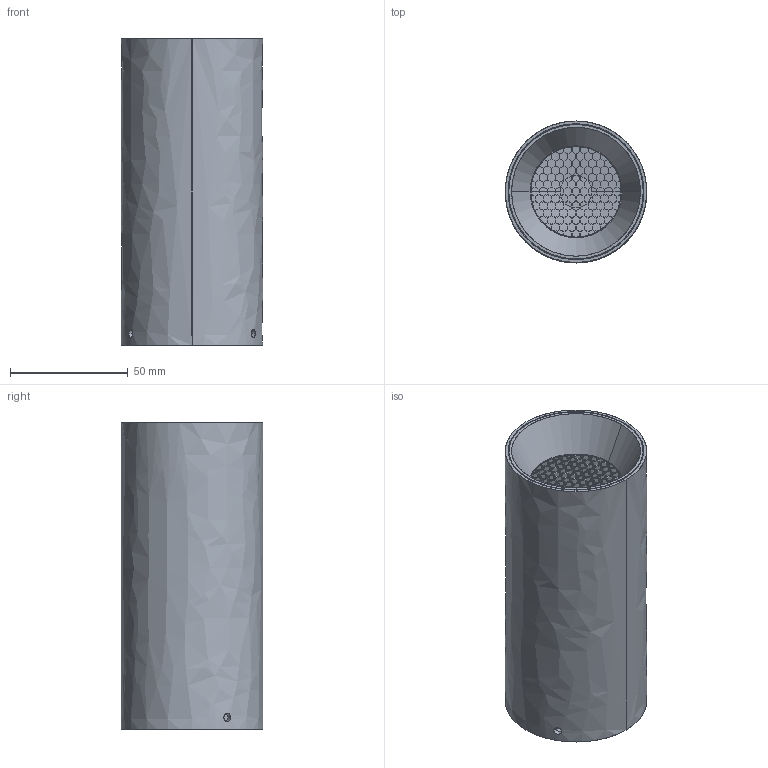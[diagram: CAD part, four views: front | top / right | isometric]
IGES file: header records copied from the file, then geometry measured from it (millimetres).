
Start section: SolidWorks IGES file using analytic representation for surfaces
Global section: file name: C:\Users\extension46\Desktop\3D-WEB\Pipe\Pipe1.IGS; native system: SolidWorks 2023; preprocessor: SolidWorks 2023; author: y.wang; date: 240627.092243; units: millimetre
Bounding box: 60 x 60 x 130 mm (x, y, z)
Surface area: 51576.6 mm2 (no closed solid volume)
Topology: 0 solids, 0 shells, 728 faces, 5521 edges, 5521 vertices
Faces by surface type: bspline 665, revolution 63
